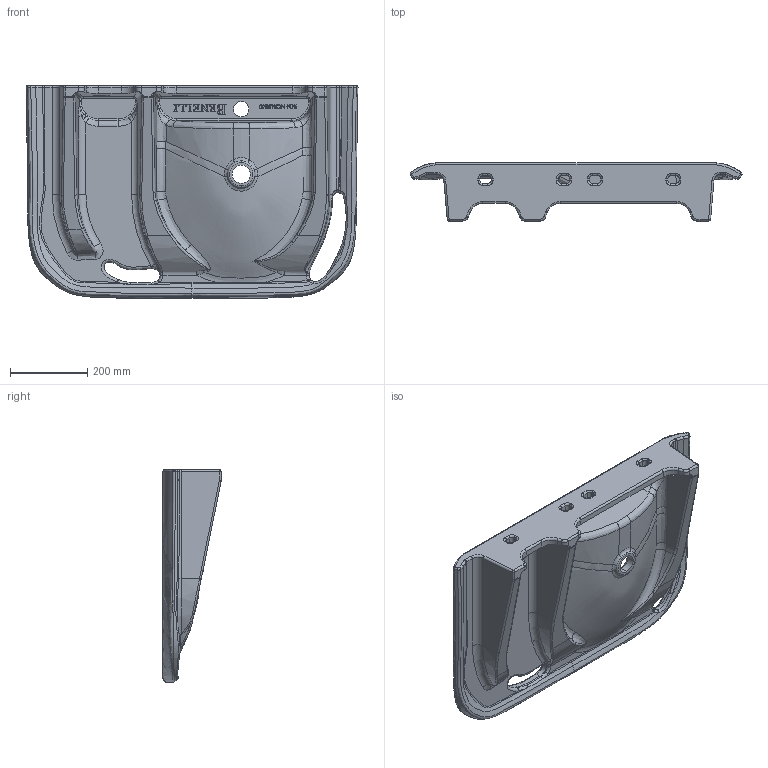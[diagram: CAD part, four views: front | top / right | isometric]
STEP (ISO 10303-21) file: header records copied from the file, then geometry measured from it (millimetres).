
FILE_DESCRIPTION (( 'STEP AP203' ), '1' );
FILE_NAME ('BEN-NCBLB850LHB.STEP', '2021-06-24T01:06:01', ( '' ), ( '' ), 'SwSTEP 2.0', 'SolidWorks 2020', '' );
FILE_SCHEMA (( 'CONFIG_CONTROL_DESIGN' ));
Products named in the file (1): BEN-NCBLB850LHB
Bounding box: 860.15 x 150.65 x 551.03 mm (x, y, z)
Volume: 17515872 mm3; surface area: 1305131.6 mm2
Topology: 1 solids, 1 shells, 1178 faces, 3216 edges, 2053 vertices
Faces by surface type: cylinder 670, bspline 269, plane 194, torus 32, cone 8, sphere 5
Entity records: 154645 total; most frequent: CARTESIAN_POINT 125762, ORIENTED_EDGE 6402, DIRECTION 5871, EDGE_CURVE 3201, AXIS2_PLACEMENT_3D 2332, VERTEX_POINT 2053, CIRCLE 1422, EDGE_LOOP 1222
